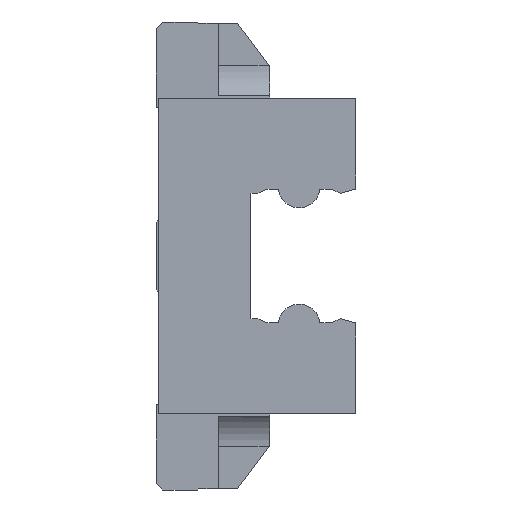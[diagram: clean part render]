
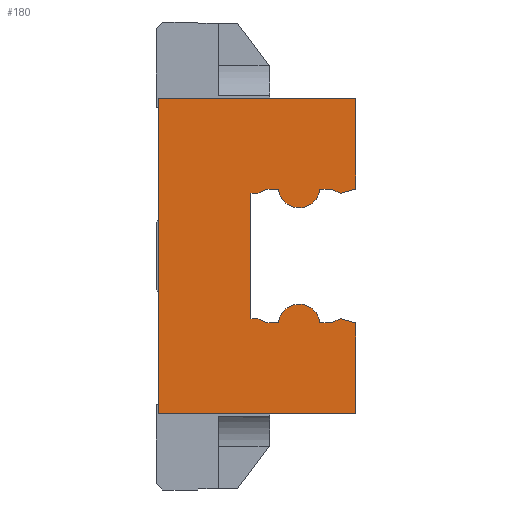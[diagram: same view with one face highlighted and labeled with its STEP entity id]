
A CAD part, left-side view. The second image highlights one B-rep face of the part: STEP entity #180.
In plain terms, the highlighted planar face has unit normal (-1, 0, 0).
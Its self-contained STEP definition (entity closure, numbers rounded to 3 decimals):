
#180 = ADVANCED_FACE( '', ( #400 ), #401, .F. );
#400 = FACE_OUTER_BOUND( '', #620, .T. );
#401 = PLANE( '', #621 );
#620 = EDGE_LOOP( '', ( #1477, #1478, #1479, #1480, #1481, #1482, #1483, #1484, #1485, #1486, #1487, #1488, #1489, #1490, #1491, #1492, #1493, #1494, #1495, #1496 ) );
#621 = AXIS2_PLACEMENT_3D( '', #1497, #1498, #1499 );
#1477 = ORIENTED_EDGE( '', *, *, #1779, .F. );
#1478 = ORIENTED_EDGE( '', *, *, #1726, .F. );
#1479 = ORIENTED_EDGE( '', *, *, #1729, .F. );
#1480 = ORIENTED_EDGE( '', *, *, #1721, .F. );
#1481 = ORIENTED_EDGE( '', *, *, #1732, .F. );
#1482 = ORIENTED_EDGE( '', *, *, #1735, .F. );
#1483 = ORIENTED_EDGE( '', *, *, #1738, .F. );
#1484 = ORIENTED_EDGE( '', *, *, #1741, .F. );
#1485 = ORIENTED_EDGE( '', *, *, #1744, .F. );
#1486 = ORIENTED_EDGE( '', *, *, #1747, .F. );
#1487 = ORIENTED_EDGE( '', *, *, #1750, .F. );
#1488 = ORIENTED_EDGE( '', *, *, #1753, .F. );
#1489 = ORIENTED_EDGE( '', *, *, #1756, .F. );
#1490 = ORIENTED_EDGE( '', *, *, #1759, .F. );
#1491 = ORIENTED_EDGE( '', *, *, #1762, .F. );
#1492 = ORIENTED_EDGE( '', *, *, #1765, .F. );
#1493 = ORIENTED_EDGE( '', *, *, #1768, .F. );
#1494 = ORIENTED_EDGE( '', *, *, #1771, .F. );
#1495 = ORIENTED_EDGE( '', *, *, #1774, .F. );
#1496 = ORIENTED_EDGE( '', *, *, #1777, .F. );
#1497 = CARTESIAN_POINT( '', ( 0., 0., 0. ) );
#1498 = DIRECTION( '', ( 1., 0., 0. ) );
#1499 = DIRECTION( '', ( 0., 0., -1. ) );
#1721 = EDGE_CURVE( '', #2138, #2140, #2141, .T. );
#1726 = EDGE_CURVE( '', #2146, #2148, #2149, .T. );
#1729 = EDGE_CURVE( '', #2140, #2146, #2153, .T. );
#1732 = EDGE_CURVE( '', #2156, #2138, #2158, .T. );
#1735 = EDGE_CURVE( '', #2161, #2156, #2163, .T. );
#1738 = EDGE_CURVE( '', #2166, #2161, #2168, .T. );
#1741 = EDGE_CURVE( '', #2171, #2166, #2173, .T. );
#1744 = EDGE_CURVE( '', #2176, #2171, #2178, .T. );
#1747 = EDGE_CURVE( '', #2181, #2176, #2183, .T. );
#1750 = EDGE_CURVE( '', #2186, #2181, #2188, .T. );
#1753 = EDGE_CURVE( '', #2191, #2186, #2193, .T. );
#1756 = EDGE_CURVE( '', #2196, #2191, #2198, .T. );
#1759 = EDGE_CURVE( '', #2201, #2196, #2203, .T. );
#1762 = EDGE_CURVE( '', #2206, #2201, #2208, .T. );
#1765 = EDGE_CURVE( '', #2211, #2206, #2213, .T. );
#1768 = EDGE_CURVE( '', #2216, #2211, #2218, .T. );
#1771 = EDGE_CURVE( '', #2221, #2216, #2223, .T. );
#1774 = EDGE_CURVE( '', #2226, #2221, #2228, .T. );
#1777 = EDGE_CURVE( '', #2231, #2226, #2233, .T. );
#1779 = EDGE_CURVE( '', #2148, #2231, #2235, .T. );
#2138 = VERTEX_POINT( '', #2762 );
#2140 = VERTEX_POINT( '', #2765 );
#2141 = LINE( '', #2766, #2767 );
#2146 = VERTEX_POINT( '', #2775 );
#2148 = VERTEX_POINT( '', #2778 );
#2149 = LINE( '', #2779, #2780 );
#2153 = LINE( '', #2786, #2787 );
#2156 = VERTEX_POINT( '', #2791 );
#2158 = LINE( '', #2794, #2795 );
#2161 = VERTEX_POINT( '', #2799 );
#2163 = LINE( '', #2802, #2803 );
#2166 = VERTEX_POINT( '', #2807 );
#2168 = LINE( '', #2810, #2811 );
#2171 = VERTEX_POINT( '', #2815 );
#2173 = LINE( '', #2818, #2819 );
#2176 = VERTEX_POINT( '', #2822 );
#2178 = CIRCLE( '', #2825, 3.1 );
#2181 = VERTEX_POINT( '', #2829 );
#2183 = LINE( '', #2832, #2833 );
#2186 = VERTEX_POINT( '', #2837 );
#2188 = LINE( '', #2840, #2841 );
#2191 = VERTEX_POINT( '', #2845 );
#2193 = LINE( '', #2848, #2849 );
#2196 = VERTEX_POINT( '', #2853 );
#2198 = LINE( '', #2856, #2857 );
#2201 = VERTEX_POINT( '', #2861 );
#2203 = LINE( '', #2864, #2865 );
#2206 = VERTEX_POINT( '', #2869 );
#2208 = LINE( '', #2872, #2873 );
#2211 = VERTEX_POINT( '', #2877 );
#2213 = LINE( '', #2880, #2881 );
#2216 = VERTEX_POINT( '', #2884 );
#2218 = CIRCLE( '', #2887, 3.1 );
#2221 = VERTEX_POINT( '', #2891 );
#2223 = LINE( '', #2894, #2895 );
#2226 = VERTEX_POINT( '', #2899 );
#2228 = LINE( '', #2902, #2903 );
#2231 = VERTEX_POINT( '', #2907 );
#2233 = LINE( '', #2910, #2911 );
#2235 = LINE( '', #2914, #2915 );
#2762 = CARTESIAN_POINT( '', ( 0., 0., -23.6 ) );
#2765 = CARTESIAN_POINT( '', ( 0., 29.5, -23.6 ) );
#2766 = CARTESIAN_POINT( '', ( 0., 0., -23.6 ) );
#2767 = VECTOR( '', #3241, 1. );
#2775 = CARTESIAN_POINT( '', ( 0., 29.5, 23.6 ) );
#2778 = CARTESIAN_POINT( '', ( 0., 0., 23.6 ) );
#2779 = CARTESIAN_POINT( '', ( 0., 29.5, 23.6 ) );
#2780 = VECTOR( '', #3246, 1. );
#2786 = CARTESIAN_POINT( '', ( 0., 29.5, -23.6 ) );
#2787 = VECTOR( '', #3249, 1. );
#2791 = CARTESIAN_POINT( '', ( 0., 0., -10. ) );
#2794 = CARTESIAN_POINT( '', ( 0., 0., -10. ) );
#2795 = VECTOR( '', #3252, 1. );
#2799 = CARTESIAN_POINT( '', ( 0., 2.33, -9.375 ) );
#2802 = CARTESIAN_POINT( '', ( 0., 2.33, -9.375 ) );
#2803 = VECTOR( '', #3255, 1. );
#2807 = CARTESIAN_POINT( '', ( 0., 3.67, -10. ) );
#2810 = CARTESIAN_POINT( '', ( 0., 3.67, -10. ) );
#2811 = VECTOR( '', #3258, 1. );
#2815 = CARTESIAN_POINT( '', ( 0., 5.415, -10. ) );
#2818 = CARTESIAN_POINT( '', ( 0., 5.415, -10. ) );
#2819 = VECTOR( '', #3261, 1. );
#2822 = CARTESIAN_POINT( '', ( 0., 11.585, -10. ) );
#2825 = AXIS2_PLACEMENT_3D( '', #3266, #3267, #3268 );
#2829 = CARTESIAN_POINT( '', ( 0., 13.316, -10. ) );
#2832 = CARTESIAN_POINT( '', ( 0., 13.316, -10. ) );
#2833 = VECTOR( '', #3271, 1. );
#2837 = CARTESIAN_POINT( '', ( 0., 14.656, -9.375 ) );
#2840 = CARTESIAN_POINT( '', ( 0., 14.656, -9.375 ) );
#2841 = VECTOR( '', #3274, 1. );
#2845 = CARTESIAN_POINT( '', ( 0., 15.7, -9.375 ) );
#2848 = CARTESIAN_POINT( '', ( 0., 15.7, -9.375 ) );
#2849 = VECTOR( '', #3277, 1. );
#2853 = CARTESIAN_POINT( '', ( 0., 15.7, 9.375 ) );
#2856 = CARTESIAN_POINT( '', ( 0., 15.7, 9.375 ) );
#2857 = VECTOR( '', #3280, 1. );
#2861 = CARTESIAN_POINT( '', ( 0., 14.656, 9.375 ) );
#2864 = CARTESIAN_POINT( '', ( 0., 14.656, 9.375 ) );
#2865 = VECTOR( '', #3283, 1. );
#2869 = CARTESIAN_POINT( '', ( 0., 13.316, 10. ) );
#2872 = CARTESIAN_POINT( '', ( 0., 13.316, 10. ) );
#2873 = VECTOR( '', #3286, 1. );
#2877 = CARTESIAN_POINT( '', ( 0., 11.585, 10. ) );
#2880 = CARTESIAN_POINT( '', ( 0., 11.585, 10. ) );
#2881 = VECTOR( '', #3289, 1. );
#2884 = CARTESIAN_POINT( '', ( 0., 5.415, 10. ) );
#2887 = AXIS2_PLACEMENT_3D( '', #3294, #3295, #3296 );
#2891 = CARTESIAN_POINT( '', ( 0., 3.67, 10. ) );
#2894 = CARTESIAN_POINT( '', ( 0., 3.67, 10. ) );
#2895 = VECTOR( '', #3299, 1. );
#2899 = CARTESIAN_POINT( '', ( 0., 2.33, 9.375 ) );
#2902 = CARTESIAN_POINT( '', ( 0., 2.33, 9.375 ) );
#2903 = VECTOR( '', #3302, 1. );
#2907 = CARTESIAN_POINT( '', ( 0., 0., 10. ) );
#2910 = CARTESIAN_POINT( '', ( 0., 0., 10. ) );
#2911 = VECTOR( '', #3305, 1. );
#2914 = CARTESIAN_POINT( '', ( 0., 0., 23.6 ) );
#2915 = VECTOR( '', #3307, 1. );
#3241 = DIRECTION( '', ( 0., 1., 0. ) );
#3246 = DIRECTION( '', ( 0., -1., 0. ) );
#3249 = DIRECTION( '', ( 0., 0., 1. ) );
#3252 = DIRECTION( '', ( 0., 0., -1. ) );
#3255 = DIRECTION( '', ( 0., -0.966, -0.259 ) );
#3258 = DIRECTION( '', ( 0., -0.906, 0.423 ) );
#3261 = DIRECTION( '', ( 0., -1., 0. ) );
#3266 = CARTESIAN_POINT( '', ( 0., 8.5, -10.3 ) );
#3267 = DIRECTION( '', ( 1., 0., 0. ) );
#3268 = DIRECTION( '', ( 0., 0.995, 0.097 ) );
#3271 = DIRECTION( '', ( 0., -1., 0. ) );
#3274 = DIRECTION( '', ( 0., -0.906, -0.423 ) );
#3277 = DIRECTION( '', ( 0., -1., 0. ) );
#3280 = DIRECTION( '', ( 0., 0., -1. ) );
#3283 = DIRECTION( '', ( 0., 1., 0. ) );
#3286 = DIRECTION( '', ( 0., 0.906, -0.423 ) );
#3289 = DIRECTION( '', ( 0., 1., 0. ) );
#3294 = CARTESIAN_POINT( '', ( 0., 8.5, 10.3 ) );
#3295 = DIRECTION( '', ( 1., 0., 0. ) );
#3296 = DIRECTION( '', ( 0., -0.995, -0.097 ) );
#3299 = DIRECTION( '', ( 0., 1., 0. ) );
#3302 = DIRECTION( '', ( 0., 0.906, 0.423 ) );
#3305 = DIRECTION( '', ( 0., 0.966, -0.259 ) );
#3307 = DIRECTION( '', ( 0., 0., -1. ) );
